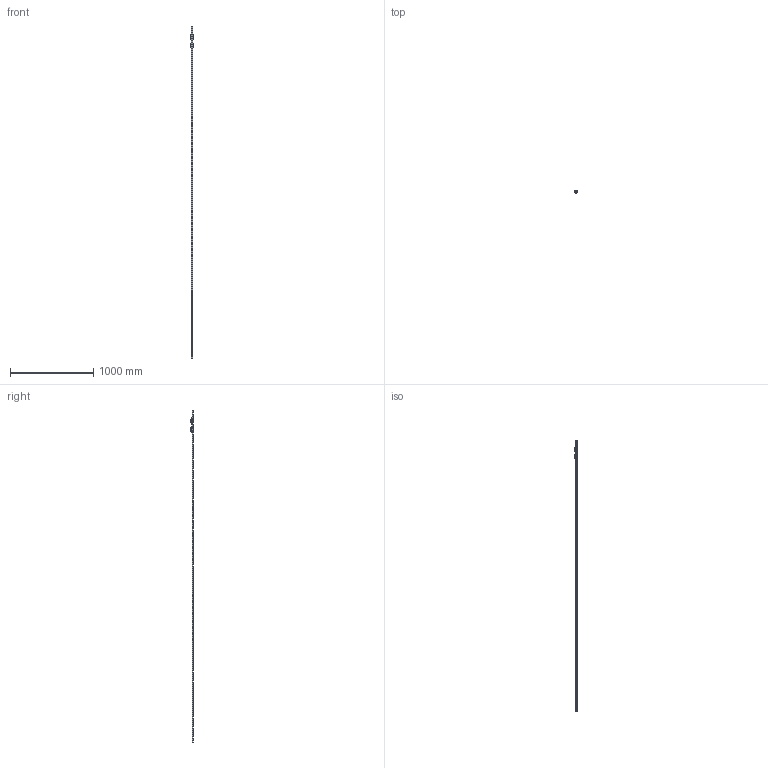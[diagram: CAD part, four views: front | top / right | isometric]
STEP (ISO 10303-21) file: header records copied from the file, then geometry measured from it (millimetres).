
FILE_DESCRIPTION((''),'2;1');
FILE_NAME('ASM0012_ASM','2020-11-24T12:17:34',('TWVS2025'),(''),'CREO PARAMETRIC BY PTC INC, 2018420','CREO PARAMETRIC BY PTC INC, 2018420','');
FILE_SCHEMA(('CONFIG_CONTROL_DESIGN'));
Products named in the file (5): BRR15_CUSTOMER_1__1_1; BC-BRC15-R0_ASM_1_1_1; BC_BR15_R0_ASM__1_1_2_ASM; BRS15-R0_CUSTOMER_ASM_1_ASM_1_1_ASM; ASM0012_ASM
Assembly tree (4 placements, depth 3):
  ASM0012_ASM
    BRS15-R0_CUSTOMER_ASM_1_ASM_1_1_ASM
      BRR15_CUSTOMER_1__1_1
      BC-BRC15-R0_ASM_1_1_1
      BC_BR15_R0_ASM__1_1_2_ASM
Bounding box: 33.95 x 28 x 4000 mm (x, y, z)
Volume: 748765.6 mm3; surface area: 279100.3 mm2
Topology: 2 solids, 66 shells, 3391 faces, 9104 edges, 5944 vertices
Faces by surface type: plane 1405, cylinder 1044, bspline 296, cone 294, torus 240, sphere 112
Entity records: 132898 total; most frequent: CARTESIAN_POINT 51455, ORIENTED_EDGE 17906, DIRECTION 15165, EDGE_CURVE 9088, VERTEX_POINT 5944, AXIS2_PLACEMENT_3D 5460, VECTOR 4245, LINE 4245
